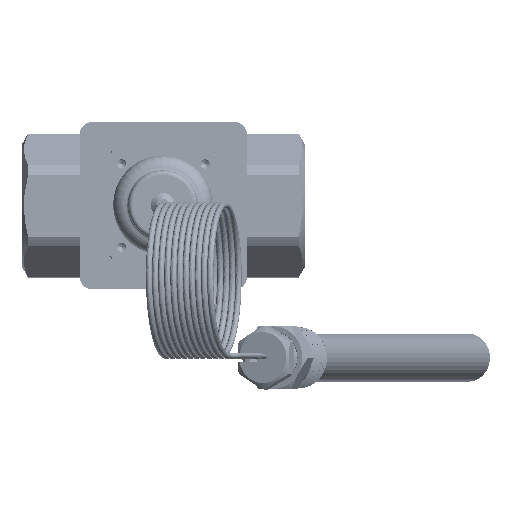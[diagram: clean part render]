
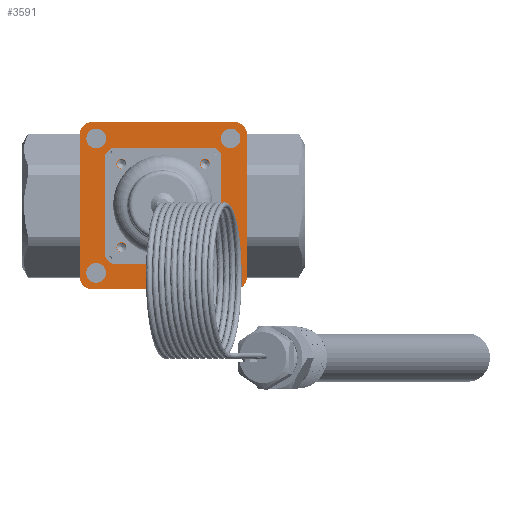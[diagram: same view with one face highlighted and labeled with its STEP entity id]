
A CAD part, front view. The second image highlights one B-rep face of the part: STEP entity #3591.
In plain terms, the highlighted planar face has unit normal (0, -1, 0) as drawn and (0, 0, -1) by its records, which use the part's own axes.
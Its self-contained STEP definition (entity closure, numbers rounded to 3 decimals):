
#2152=PLANE('',#21206);
#2481=FACE_BOUND('',#6230,.T.);
#2482=FACE_BOUND('',#6231,.T.);
#2483=FACE_BOUND('',#6232,.T.);
#2484=FACE_BOUND('',#6233,.T.);
#2485=FACE_BOUND('',#6234,.T.);
#2486=FACE_BOUND('',#6235,.T.);
#2487=FACE_BOUND('',#6236,.T.);
#2488=FACE_BOUND('',#6237,.T.);
#2489=FACE_BOUND('',#6238,.T.);
#2490=FACE_BOUND('',#6239,.T.);
#3591=ADVANCED_FACE('',(#2481,#2482,#2483,#2484,#2485,#2486,#2487,#2488,
#2489,#2490),#2152,.T.);
#6230=EDGE_LOOP('',(#12240,#12241));
#6231=EDGE_LOOP('',(#12242,#12243));
#6232=EDGE_LOOP('',(#12244,#12245));
#6233=EDGE_LOOP('',(#12246,#12247));
#6234=EDGE_LOOP('',(#12248));
#6235=EDGE_LOOP('',(#12249));
#6236=EDGE_LOOP('',(#12250));
#6237=EDGE_LOOP('',(#12251));
#6238=EDGE_LOOP('',(#12252));
#6239=EDGE_LOOP('',(#12253,#12254,#12255,#12256,#12257,#12258,#12259,#12260));
#7035=CIRCLE('',#21189,2.);
#7036=CIRCLE('',#21190,2.);
#7037=CIRCLE('',#21191,2.);
#7038=CIRCLE('',#21192,2.);
#7039=CIRCLE('',#21193,2.);
#7040=CIRCLE('',#21194,2.);
#7041=CIRCLE('',#21195,2.);
#7042=CIRCLE('',#21196,2.);
#7043=CIRCLE('',#21197,4.25);
#7044=CIRCLE('',#21198,4.25);
#7045=CIRCLE('',#21199,4.25);
#7046=CIRCLE('',#21200,4.25);
#7047=CIRCLE('',#21201,19.);
#7048=CIRCLE('',#21202,5.);
#7049=CIRCLE('',#21203,5.);
#7050=CIRCLE('',#21204,5.);
#7051=CIRCLE('',#21205,5.);
#12240=ORIENTED_EDGE('',*,*,#16761,.T.);
#12241=ORIENTED_EDGE('',*,*,#16762,.T.);
#12242=ORIENTED_EDGE('',*,*,#16763,.T.);
#12243=ORIENTED_EDGE('',*,*,#16764,.T.);
#12244=ORIENTED_EDGE('',*,*,#16765,.T.);
#12245=ORIENTED_EDGE('',*,*,#16766,.T.);
#12246=ORIENTED_EDGE('',*,*,#16767,.T.);
#12247=ORIENTED_EDGE('',*,*,#16768,.T.);
#12248=ORIENTED_EDGE('',*,*,#16769,.F.);
#12249=ORIENTED_EDGE('',*,*,#16770,.F.);
#12250=ORIENTED_EDGE('',*,*,#16771,.F.);
#12251=ORIENTED_EDGE('',*,*,#16772,.F.);
#12252=ORIENTED_EDGE('',*,*,#16773,.T.);
#12253=ORIENTED_EDGE('',*,*,#16756,.F.);
#12254=ORIENTED_EDGE('',*,*,#16774,.T.);
#12255=ORIENTED_EDGE('',*,*,#16758,.F.);
#12256=ORIENTED_EDGE('',*,*,#16775,.T.);
#12257=ORIENTED_EDGE('',*,*,#16776,.F.);
#12258=ORIENTED_EDGE('',*,*,#16777,.T.);
#12259=ORIENTED_EDGE('',*,*,#16753,.F.);
#12260=ORIENTED_EDGE('',*,*,#16778,.T.);
#14106=VERTEX_POINT('',#79999);
#14107=VERTEX_POINT('',#80001);
#14108=VERTEX_POINT('',#80005);
#14109=VERTEX_POINT('',#80007);
#14110=VERTEX_POINT('',#80011);
#14111=VERTEX_POINT('',#80012);
#14112=VERTEX_POINT('',#80017);
#14113=VERTEX_POINT('',#80018);
#14114=VERTEX_POINT('',#80021);
#14115=VERTEX_POINT('',#80022);
#14116=VERTEX_POINT('',#80025);
#14117=VERTEX_POINT('',#80026);
#14118=VERTEX_POINT('',#80029);
#14119=VERTEX_POINT('',#80030);
#14120=VERTEX_POINT('',#80033);
#14121=VERTEX_POINT('',#80035);
#14122=VERTEX_POINT('',#80037);
#14123=VERTEX_POINT('',#80039);
#14124=VERTEX_POINT('',#80041);
#14125=VERTEX_POINT('',#80044);
#14126=VERTEX_POINT('',#80046);
#16753=EDGE_CURVE('',#14106,#14107,#18135,.T.);
#16756=EDGE_CURVE('',#14108,#14109,#18138,.T.);
#16758=EDGE_CURVE('',#14110,#14111,#18140,.T.);
#16761=EDGE_CURVE('',#14112,#14113,#7035,.T.);
#16762=EDGE_CURVE('',#14113,#14112,#7036,.T.);
#16763=EDGE_CURVE('',#14114,#14115,#7037,.T.);
#16764=EDGE_CURVE('',#14115,#14114,#7038,.T.);
#16765=EDGE_CURVE('',#14116,#14117,#7039,.T.);
#16766=EDGE_CURVE('',#14117,#14116,#7040,.T.);
#16767=EDGE_CURVE('',#14118,#14119,#7041,.T.);
#16768=EDGE_CURVE('',#14119,#14118,#7042,.T.);
#16769=EDGE_CURVE('',#14120,#14120,#7043,.T.);
#16770=EDGE_CURVE('',#14121,#14121,#7044,.T.);
#16771=EDGE_CURVE('',#14122,#14122,#7045,.T.);
#16772=EDGE_CURVE('',#14123,#14123,#7046,.T.);
#16773=EDGE_CURVE('',#14124,#14124,#7047,.T.);
#16774=EDGE_CURVE('',#14108,#14111,#7048,.T.);
#16775=EDGE_CURVE('',#14110,#14125,#7049,.T.);
#16776=EDGE_CURVE('',#14126,#14125,#18143,.T.);
#16777=EDGE_CURVE('',#14126,#14107,#7050,.T.);
#16778=EDGE_CURVE('',#14106,#14109,#7051,.T.);
#18135=LINE('',#80000,#19471);
#18138=LINE('',#80006,#19474);
#18140=LINE('',#80010,#19476);
#18143=LINE('',#80045,#19479);
#19471=VECTOR('',#26000,1.);
#19474=VECTOR('',#26005,1.);
#19476=VECTOR('',#26009,1.);
#19479=VECTOR('',#26044,1.);
#21189=AXIS2_PLACEMENT_3D('',#80016,#26014,#26015);
#21190=AXIS2_PLACEMENT_3D('',#80019,#26016,#26017);
#21191=AXIS2_PLACEMENT_3D('',#80020,#26018,#26019);
#21192=AXIS2_PLACEMENT_3D('',#80023,#26020,#26021);
#21193=AXIS2_PLACEMENT_3D('',#80024,#26022,#26023);
#21194=AXIS2_PLACEMENT_3D('',#80027,#26024,#26025);
#21195=AXIS2_PLACEMENT_3D('',#80028,#26026,#26027);
#21196=AXIS2_PLACEMENT_3D('',#80031,#26028,#26029);
#21197=AXIS2_PLACEMENT_3D('',#80032,#26030,#26031);
#21198=AXIS2_PLACEMENT_3D('',#80034,#26032,#26033);
#21199=AXIS2_PLACEMENT_3D('',#80036,#26034,#26035);
#21200=AXIS2_PLACEMENT_3D('',#80038,#26036,#26037);
#21201=AXIS2_PLACEMENT_3D('',#80040,#26038,#26039);
#21202=AXIS2_PLACEMENT_3D('',#80042,#26040,#26041);
#21203=AXIS2_PLACEMENT_3D('',#80043,#26042,#26043);
#21204=AXIS2_PLACEMENT_3D('',#80047,#26045,#26046);
#21205=AXIS2_PLACEMENT_3D('',#80048,#26047,#26048);
#21206=AXIS2_PLACEMENT_3D('',#80049,#26049,#26050);
#26000=DIRECTION('',(1.,0.,0.));
#26005=DIRECTION('',(0.,-1.,0.));
#26009=DIRECTION('',(-1.,0.,0.));
#26014=DIRECTION('',(0.,0.,1.));
#26015=DIRECTION('',(-1.,0.,0.));
#26016=DIRECTION('',(0.,0.,1.));
#26017=DIRECTION('',(-1.,0.,0.));
#26018=DIRECTION('',(0.,0.,1.));
#26019=DIRECTION('',(-1.,0.,0.));
#26020=DIRECTION('',(0.,0.,1.));
#26021=DIRECTION('',(-1.,0.,0.));
#26022=DIRECTION('',(0.,0.,1.));
#26023=DIRECTION('',(-1.,0.,0.));
#26024=DIRECTION('',(0.,0.,1.));
#26025=DIRECTION('',(-1.,0.,0.));
#26026=DIRECTION('',(0.,0.,1.));
#26027=DIRECTION('',(-1.,0.,0.));
#26028=DIRECTION('',(0.,0.,1.));
#26029=DIRECTION('',(-1.,0.,0.));
#26030=DIRECTION('',(0.,0.,-1.));
#26031=DIRECTION('',(-1.,0.,0.));
#26032=DIRECTION('',(0.,0.,-1.));
#26033=DIRECTION('',(-1.,0.,0.));
#26034=DIRECTION('',(0.,0.,-1.));
#26035=DIRECTION('',(-1.,0.,0.));
#26036=DIRECTION('',(0.,0.,-1.));
#26037=DIRECTION('',(-1.,0.,0.));
#26038=DIRECTION('',(0.,0.,1.));
#26039=DIRECTION('',(-1.,0.,0.));
#26040=DIRECTION('',(0.,0.,-1.));
#26041=DIRECTION('',(-1.,0.,0.));
#26042=DIRECTION('',(0.,0.,-1.));
#26043=DIRECTION('',(-1.,0.,0.));
#26044=DIRECTION('',(0.,1.,0.));
#26045=DIRECTION('',(0.,0.,-1.));
#26046=DIRECTION('',(-1.,0.,0.));
#26047=DIRECTION('',(0.,0.,-1.));
#26048=DIRECTION('',(-1.,0.,0.));
#26049=DIRECTION('',(0.,0.,-1.));
#26050=DIRECTION('',(-1.,0.,0.));
#79999=CARTESIAN_POINT('',(5.,0.,0.));
#80000=CARTESIAN_POINT('',(36.,0.,0.));
#80001=CARTESIAN_POINT('',(67.,0.,0.));
#80005=CARTESIAN_POINT('',(0.,67.,0.));
#80006=CARTESIAN_POINT('',(0.,36.,0.));
#80007=CARTESIAN_POINT('',(0.,5.,0.));
#80010=CARTESIAN_POINT('',(36.,72.,0.));
#80011=CARTESIAN_POINT('',(67.,72.,0.));
#80012=CARTESIAN_POINT('',(5.,72.,0.));
#80016=CARTESIAN_POINT('',(18.,18.,0.));
#80017=CARTESIAN_POINT('',(19.296,16.476,0.));
#80018=CARTESIAN_POINT('',(19.296,19.524,0.));
#80019=CARTESIAN_POINT('',(18.,18.,0.));
#80020=CARTESIAN_POINT('',(18.,54.,0.));
#80021=CARTESIAN_POINT('',(19.296,52.476,0.));
#80022=CARTESIAN_POINT('',(19.296,55.524,0.));
#80023=CARTESIAN_POINT('',(18.,54.,0.));
#80024=CARTESIAN_POINT('',(54.,54.,0.));
#80025=CARTESIAN_POINT('',(55.296,52.476,0.));
#80026=CARTESIAN_POINT('',(55.296,55.524,0.));
#80027=CARTESIAN_POINT('',(54.,54.,0.));
#80028=CARTESIAN_POINT('',(54.,18.,0.));
#80029=CARTESIAN_POINT('',(55.296,16.476,0.));
#80030=CARTESIAN_POINT('',(55.296,19.524,0.));
#80031=CARTESIAN_POINT('',(54.,18.,0.));
#80032=CARTESIAN_POINT('',(65.,7.,0.));
#80033=CARTESIAN_POINT('',(60.75,7.,0.));
#80034=CARTESIAN_POINT('',(7.,7.,0.));
#80035=CARTESIAN_POINT('',(2.75,7.,0.));
#80036=CARTESIAN_POINT('',(7.,65.,0.));
#80037=CARTESIAN_POINT('',(2.75,65.,0.));
#80038=CARTESIAN_POINT('',(65.,65.,0.));
#80039=CARTESIAN_POINT('',(60.75,65.,0.));
#80040=CARTESIAN_POINT('',(36.,36.,0.));
#80041=CARTESIAN_POINT('',(17.,36.,0.));
#80042=CARTESIAN_POINT('',(5.,67.,0.));
#80043=CARTESIAN_POINT('',(67.,67.,0.));
#80044=CARTESIAN_POINT('',(72.,67.,0.));
#80045=CARTESIAN_POINT('',(72.,36.,0.));
#80046=CARTESIAN_POINT('',(72.,5.,0.));
#80047=CARTESIAN_POINT('',(67.,5.,0.));
#80048=CARTESIAN_POINT('',(5.,5.,0.));
#80049=CARTESIAN_POINT('',(36.,36.,0.));
